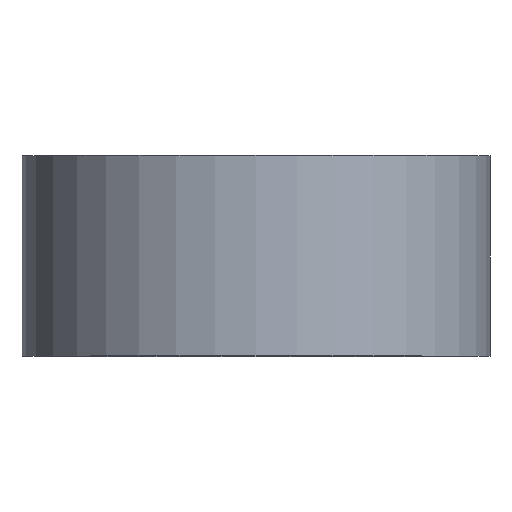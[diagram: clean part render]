
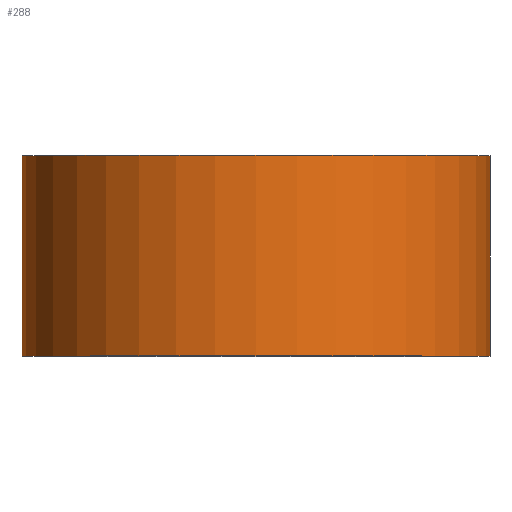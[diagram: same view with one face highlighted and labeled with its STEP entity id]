
A CAD part, top view. The second image highlights one B-rep face of the part: STEP entity #288.
In plain terms, the highlighted cylindrical face has radius 35 mm (diameter 70 mm), a partial arc.
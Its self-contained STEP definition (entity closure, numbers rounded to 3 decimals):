
#6 = VERTEX_POINT ( 'NONE', #42 ) ;
#7 = CARTESIAN_POINT ( 'NONE',  ( -35., 30., 0. ) ) ;
#8 = CARTESIAN_POINT ( 'NONE',  ( 35., 30., 0. ) ) ;
#13 = AXIS2_PLACEMENT_3D ( 'NONE', #248, #53, #227 ) ;
#20 = ORIENTED_EDGE ( 'NONE', *, *, #167, .T. ) ;
#42 = CARTESIAN_POINT ( 'NONE',  ( -35., 0., 0. ) ) ;
#46 = LINE ( 'NONE', #132, #283 ) ;
#53 = DIRECTION ( 'NONE',  ( 0., 1., 0. ) ) ;
#54 = ORIENTED_EDGE ( 'NONE', *, *, #111, .F. ) ;
#71 = VECTOR ( 'NONE', #266, 1000. ) ;
#81 = LINE ( 'NONE', #270, #71 ) ;
#87 = AXIS2_PLACEMENT_3D ( 'NONE', #143, #220, #166 ) ;
#111 = EDGE_CURVE ( 'NONE', #136, #211, #300, .T. ) ;
#119 = DIRECTION ( 'NONE',  ( 0., 1., 0. ) ) ;
#121 = CARTESIAN_POINT ( 'NONE',  ( 0., 0., 0. ) ) ;
#131 = EDGE_CURVE ( 'NONE', #6, #168, #254, .T. ) ;
#132 = CARTESIAN_POINT ( 'NONE',  ( 35., 0., 0. ) ) ;
#136 = VERTEX_POINT ( 'NONE', #7 ) ;
#143 = CARTESIAN_POINT ( 'NONE',  ( 0., 30., 0. ) ) ;
#150 = ORIENTED_EDGE ( 'NONE', *, *, #131, .T. ) ;
#166 = DIRECTION ( 'NONE',  ( -1., 0., 0. ) ) ;
#167 = EDGE_CURVE ( 'NONE', #168, #211, #46, .T. ) ;
#168 = VERTEX_POINT ( 'NONE', #287 ) ;
#211 = VERTEX_POINT ( 'NONE', #8 ) ;
#220 = DIRECTION ( 'NONE',  ( 0., 1., 0. ) ) ;
#225 = DIRECTION ( 'NONE',  ( 0., 1., 0. ) ) ;
#227 = DIRECTION ( 'NONE',  ( -1., 0., 0. ) ) ;
#235 = EDGE_LOOP ( 'NONE', ( #150, #20, #54, #273 ) ) ;
#248 = CARTESIAN_POINT ( 'NONE',  ( 0., 0., 0. ) ) ;
#254 = CIRCLE ( 'NONE', #277, 35. ) ;
#255 = CYLINDRICAL_SURFACE ( 'NONE', #13, 35. ) ;
#258 = FACE_OUTER_BOUND ( 'NONE', #235, .T. ) ;
#266 = DIRECTION ( 'NONE',  ( 0., 1., 0. ) ) ;
#268 = DIRECTION ( 'NONE',  ( -1., 0., 0. ) ) ;
#270 = CARTESIAN_POINT ( 'NONE',  ( -35., 0., 0. ) ) ;
#273 = ORIENTED_EDGE ( 'NONE', *, *, #276, .F. ) ;
#276 = EDGE_CURVE ( 'NONE', #6, #136, #81, .T. ) ;
#277 = AXIS2_PLACEMENT_3D ( 'NONE', #121, #225, #268 ) ;
#283 = VECTOR ( 'NONE', #119, 1000. ) ;
#287 = CARTESIAN_POINT ( 'NONE',  ( 35., 0., 0. ) ) ;
#288 = ADVANCED_FACE ( 'NONE', ( #258 ), #255, .T. ) ;
#300 = CIRCLE ( 'NONE', #87, 35. ) ;
